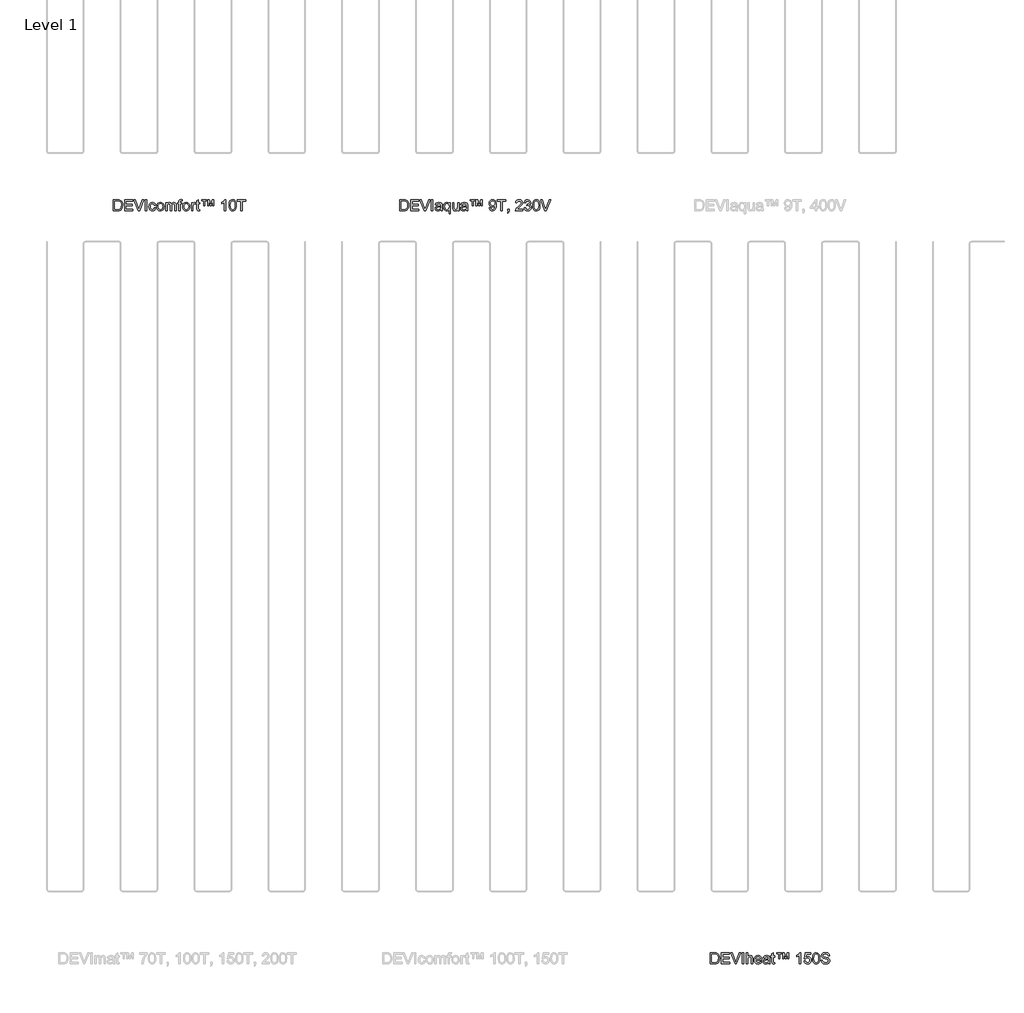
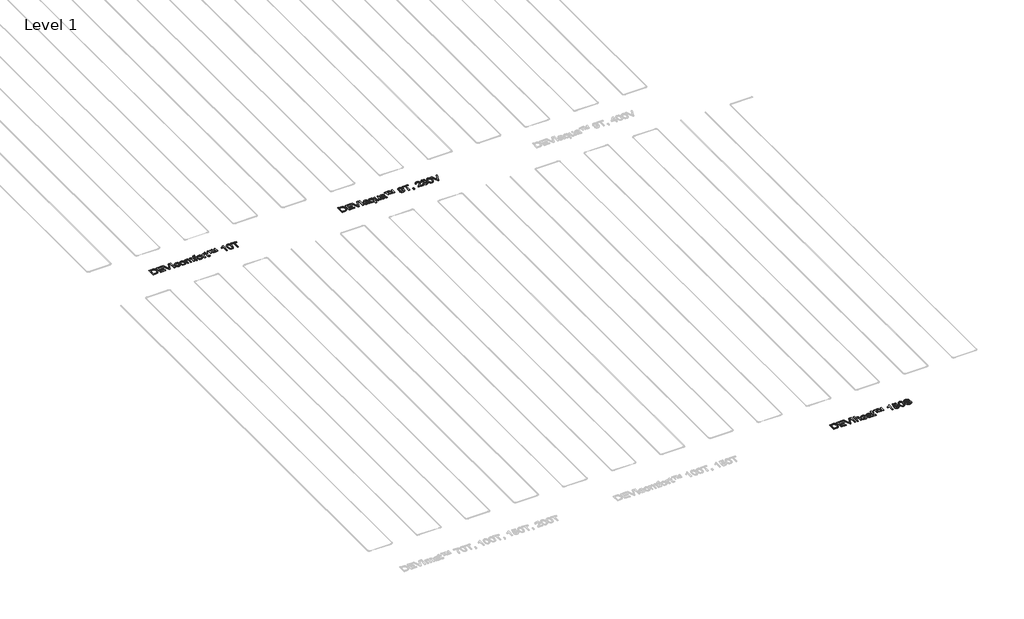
# One storey, part 11 of 26: 3 proxies.
"""IFC4 building model written with IfcOpenShell, lengths in millimetres."""

from ifc_helpers import new_model, si_unit, origin, origin_with_axes, place, context, project, spatial, polyline, outline, extrude, element, save

model = new_model("IFC4")

# Units and contexts
model_context = context("Model", 3, world=origin())
ifc_project = project(units=[si_unit("LENGTHUNIT", "METRE", prefix="MILLI")], contexts=[model_context])

# Site, building, storey
site = spatial("IfcSite", under=ifc_project)
building = spatial("IfcBuilding", under=site)
storey = spatial("IfcBuildingStorey", under=building, Name="Level 1", Elevation=0.0)

# Proxies
placement = place(None, origin())
element("IfcBuildingElementProxy", 1, Name="150mm", ObjectType="150mm", at=placement, inside=storey, context=model_context, shape_type="SweptSolid", body=[
    extrude(outline(polyline([(-10684.4647852, -17520.7202), (-10684.4647852, -17370.0357347), (-10632.4830593, -17370.0357347), (-10605.5908854, -17372.2062385), (-10583.4443893, -17382.985181), (-10573.0241318, -17394.4630992), (-10565.6021126, -17408.7369206), (-10561.1599375, -17425.5307337), (-10559.6792124, -17444.568627), (-10563.6891262, -17474.9740739), (-10573.9898221, -17496.9182349), (-10587.7486087, -17510.585051), (-10605.7564323, -17518.145026), (-10629.9814617, -17520.7202), (-10684.4647852, -17520.7202)]), holes=[polyline([(-10665.6292271, -17501.8846418), (-10632.2991183, -17501.8846418), (-10608.0556948, -17499.162315), (-10594.076179, -17491.4735813), (-10582.6166548, -17472.7667819), (-10578.5147706, -17444.2743214), (-10580.524326, -17423.746506), (-10586.5529922, -17408.5897678), (-10595.460335, -17398.1787074), (-10606.1059202, -17391.8879252), (-10632.8141531, -17388.8712929), (-10665.6292271, -17388.8712929), (-10665.6292271, -17501.8846418)])]), origin_with_axes(), (0.0, 0.0, 1.0), 10.0),
    extrude(outline(polyline([(-10533.78032, -17520.7202), (-10533.78032, -17370.0357347), (-10425.4758606, -17370.0357347), (-10425.4758606, -17388.8712929), (-10514.9447618, -17388.8712929), (-10514.9447618, -17433.6057435), (-10430.1847501, -17433.6057435), (-10430.1847501, -17452.4413017), (-10514.9447618, -17452.4413017), (-10514.9447618, -17501.8846418), (-10423.1214158, -17501.8846418), (-10423.1214158, -17520.7202), (-10533.78032, -17520.7202)])), origin_with_axes(), (0.0, 0.0, 1.0), 10.0),
    extrude(outline(polyline([(-10350.3543572, -17520.7202), (-10410.3191224, -17370.0357347), (-10390.1591891, -17370.0357347), (-10350.0232634, -17478.5977115), (-10341.8930713, -17503.0618642), (-10333.8732438, -17478.5977115), (-10293.6269535, -17370.0357347), (-10273.4670202, -17370.0357347), (-10330.8933996, -17520.7202), (-10350.3543572, -17520.7202)])), origin_with_axes(), (0.0, 0.0, 1.0), 10.0),
    extrude(outline(polyline([(-10253.6013925, -17520.7202), (-10253.6013925, -17370.0357347), (-10234.7658343, -17370.0357347), (-10234.7658343, -17520.7202), (-10253.6013925, -17520.7202)])), origin_with_axes(), (0.0, 0.0, 1.0), 10.0),
    extrude(outline(polyline([(-10128.8158197, -17480.6946389), (-10109.9802615, -17483.0490837), (-10115.231777, -17499.80151), (-10125.1002115, -17512.4612492), (-10138.6566631, -17520.4212958), (-10154.9722296, -17523.0746447), (-10175.0080027, -17519.3728322), (-10190.6751772, -17508.2673944), (-10200.7873335, -17490.2457752), (-10204.1580523, -17465.7954181), (-10202.718714, -17449.0337947), (-10198.4006991, -17434.5070544), (-10191.1350297, -17422.7762173), (-10180.8527279, -17414.4023034), (-10168.5516737, -17409.3807141), (-10155.229747, -17407.706851), (-10139.3142521, -17410.0061135), (-10126.5901336, -17416.9039009), (-10117.4620616, -17428.0323313), (-10112.3347063, -17443.0235226), (-10131.1702645, -17445.3779673), (-10139.9074619, -17431.2696928), (-10155.0825942, -17426.5424092), (-10167.2548897, -17428.8692628), (-10176.9163906, -17435.8498237), (-10183.2209683, -17447.8611708), (-10185.3224942, -17465.2803833), (-10183.2669535, -17482.9341205), (-10177.1003316, -17494.9868544), (-10167.6135746, -17501.9260285), (-10155.5976289, -17504.2390866), (-10145.8441575, -17502.7951497), (-10137.8473227, -17498.4633392), (-10132.0301886, -17491.1332905), (-10128.8158197, -17480.6946389)])), origin_with_axes(), (0.0, 0.0, 1.0), 10.0),
    extrude(outline(polyline([(-10098.2080377, -17465.3907479), (-10094.1337446, -17438.7101062), (-10081.9108653, -17419.9573215), (-10066.8093094, -17410.7694686), (-10048.7279093, -17407.706851), (-10028.9404565, -17411.4362548), (-10013.1353263, -17422.6244659), (-10002.7748496, -17440.3885678), (-9999.3213574, -17463.8456435), (-10000.8480677, -17482.8743397), (-10005.4281985, -17497.3596933), (-10012.9283927, -17508.2076136), (-10023.215293, -17516.3240101), (-10035.4335737, -17521.3869861), (-10048.7279093, -17523.0746447), (-10068.7544855, -17519.3590366), (-10084.5412216, -17508.2122121), (-10094.7913337, -17490.0756298), (-10098.2080377, -17465.3907479)]), holes=[polyline([(-10079.3724795, -17465.3539597), (-10077.1927787, -17482.4006916), (-10070.6536763, -17494.545396), (-10060.8128329, -17501.8156639), (-10048.7279093, -17504.2390866), (-10036.6981681, -17501.8018684), (-10026.8757188, -17494.4902137), (-10020.3366164, -17482.184561), (-10018.1569155, -17464.7653485), (-10020.3504119, -17448.2152572), (-10026.9309011, -17436.2360998), (-10036.767146, -17428.9658318), (-10048.7279093, -17426.5424092), (-10060.8128329, -17428.9566348), (-10070.6536763, -17436.1993116), (-10077.1927787, -17448.3164248), (-10079.3724795, -17465.3539597)])]), origin_with_axes(), (0.0, 0.0, 1.0), 10.0),
    extrude(outline(polyline([(-9978.1313545, -17520.7202), (-9978.1313545, -17410.0612958), (-9959.2957963, -17410.0612958), (-9959.2957963, -17428.2714546), (-9946.3463501, -17413.3538397), (-9927.9154621, -17407.706851), (-9917.4400223, -17409.1461893), (-9909.0431158, -17413.4642043), (-9898.6688435, -17429.5958298), (-9883.9719578, -17413.1790957), (-9865.4123112, -17407.706851), (-9851.2534529, -17409.9831209), (-9840.7826116, -17416.8119304), (-9834.312487, -17428.3772206), (-9832.1557788, -17444.8629326), (-9832.1557788, -17520.7202), (-9850.9913369, -17520.7202), (-9850.9913369, -17452.9563364), (-9852.7387764, -17437.2293812), (-9859.0663467, -17429.4854652), (-9869.8268951, -17426.5424092), (-9880.0310219, -17428.4278044), (-9888.3497535, -17434.0839901), (-9893.8817791, -17443.8972423), (-9895.7257876, -17458.2538372), (-9895.7257876, -17520.7202), (-9914.5613457, -17520.7202), (-9914.5613457, -17450.8594091), (-9918.9207473, -17432.6124621), (-9924.673502, -17428.0599224), (-9933.2129629, -17426.5424092), (-9947.1556905, -17430.5891111), (-9956.4263168, -17442.4349114), (-9959.2957963, -17464.9125013), (-9959.2957963, -17520.7202), (-9978.1313545, -17520.7202)])), origin_with_axes(), (0.0, 0.0, 1.0), 10.0),
    extrude(outline(polyline([(-9799.193552, -17520.7202), (-9799.193552, -17428.896854), (-9815.6746654, -17428.896854), (-9815.6746654, -17410.0612958), (-9799.193552, -17410.0612958), (-9799.193552, -17398.9144714), (-9797.2069892, -17383.2059102), (-9787.568481, -17371.9855093), (-9768.58577, -17367.68129), (-9751.4056808, -17369.7414291), (-9754.1647958, -17387.3997649), (-9765.0173147, -17386.5168481), (-9776.881509, -17389.6438451), (-9780.3579939, -17401.3057043), (-9780.3579939, -17410.0612958), (-9759.1679909, -17410.0612958), (-9759.1679909, -17428.896854), (-9780.3579939, -17428.896854), (-9780.3579939, -17520.7202), (-9799.193552, -17520.7202)])), origin_with_axes(), (0.0, 0.0, 1.0), 10.0),
    extrude(outline(polyline([(-9747.3957671, -17465.3907479), (-9743.321474, -17438.7101062), (-9731.0985947, -17419.9573215), (-9715.9970388, -17410.7694686), (-9697.9156387, -17407.706851), (-9678.1281859, -17411.4362548), (-9662.3230557, -17422.6244659), (-9651.962579, -17440.3885678), (-9648.5090868, -17463.8456435), (-9650.0357971, -17482.8743397), (-9654.6159279, -17497.3596933), (-9662.1161221, -17508.2076136), (-9672.4030224, -17516.3240101), (-9684.6213031, -17521.3869861), (-9697.9156387, -17523.0746447), (-9717.9422149, -17519.3590366), (-9733.728951, -17508.2122121), (-9743.9790631, -17490.0756298), (-9747.3957671, -17465.3907479)]), holes=[polyline([(-9728.5602089, -17465.3539597), (-9726.3805081, -17482.4006916), (-9719.8414057, -17494.545396), (-9710.0005623, -17501.8156639), (-9697.9156387, -17504.2390866), (-9685.8858975, -17501.8018684), (-9676.0634482, -17494.4902137), (-9669.5243458, -17482.184561), (-9667.3446449, -17464.7653485), (-9669.5381413, -17448.2152572), (-9676.1186305, -17436.2360998), (-9685.9548754, -17428.9658318), (-9697.9156387, -17426.5424092), (-9710.0005623, -17428.9566348), (-9719.8414057, -17436.1993116), (-9726.3805081, -17448.3164248), (-9728.5602089, -17465.3539597)])]), origin_with_axes(), (0.0, 0.0, 1.0), 10.0),
    extrude(outline(polyline([(-9627.3190839, -17520.7202), (-9627.3190839, -17410.0612958), (-9610.8379705, -17410.0612958), (-9610.8379705, -17426.4320446), (-9599.139323, -17411.3488828), (-9587.3670992, -17407.706851), (-9568.4579646, -17413.5193866), (-9574.7487468, -17430.4051701), (-9587.9924986, -17426.5424092), (-9598.6426823, -17430.2580173), (-9605.4301052, -17440.5587132), (-9608.4835257, -17462.5580565), (-9608.4835257, -17520.7202), (-9627.3190839, -17520.7202)])), origin_with_axes(), (0.0, 0.0, 1.0), 10.0),
    extrude(outline(polyline([(-9516.6601797, -17505.0116388), (-9514.305735, -17521.272023), (-9528.3956154, -17523.0746447), (-9544.177753, -17519.9476478), (-9552.0504277, -17511.7438793), (-9554.331296, -17490.3699354), (-9554.331296, -17428.896854), (-9568.4579646, -17428.896854), (-9568.4579646, -17410.0612958), (-9554.331296, -17410.0612958), (-9554.331296, -17383.169122), (-9535.4957379, -17372.0958739), (-9535.4957379, -17410.0612958), (-9516.6601797, -17410.0612958), (-9516.6601797, -17428.896854), (-9535.4957379, -17428.896854), (-9535.4957379, -17489.8181124), (-9534.5024565, -17499.530197), (-9531.283489, -17502.9698937), (-9524.8639482, -17504.2390866), (-9516.6601797, -17505.0116388)])), origin_with_axes(), (0.0, 0.0, 1.0), 10.0),
    extrude(outline(polyline([(-9462.50795, -17454.7957464), (-9462.50795, -17384.1624033), (-9490.7612873, -17384.1624033), (-9490.7612873, -17370.0357347), (-9420.1279442, -17370.0357347), (-9420.1279442, -17384.1624033), (-9448.3812814, -17384.1624033), (-9448.3812814, -17454.7957464), (-9462.50795, -17454.7957464)])), origin_with_axes(), (0.0, 0.0, 1.0), 10.0),
    extrude(outline(polyline([(-9410.7101651, -17454.7957464), (-9410.7101651, -17370.0357347), (-9389.8144678, -17370.0357347), (-9368.2565829, -17438.0939038), (-9346.9562153, -17370.0357347), (-9325.9501534, -17370.0357347), (-9325.9501534, -17454.7957464), (-9340.076822, -17454.7957464), (-9340.076822, -17385.1924729), (-9361.266825, -17454.7957464), (-9375.3934936, -17454.7957464), (-9396.5834965, -17384.1624033), (-9396.5834965, -17454.7957464), (-9410.7101651, -17454.7957464)])), origin_with_axes(), (0.0, 0.0, 1.0), 10.0),
    extrude(outline(polyline([(-9163.4934644, -17520.7202), (-9182.3290225, -17520.7202), (-9182.3290225, -17403.2922671), (-9200.1712993, -17416.00259), (-9220.0001388, -17425.5123396), (-9220.0001388, -17407.706851), (-9192.3905951, -17390.0853035), (-9175.6335702, -17370.0357347), (-9163.4934644, -17370.0357347), (-9163.4934644, -17520.7202)])), origin_with_axes(), (0.0, 0.0, 1.0), 10.0),
    extrude(outline(polyline([(-9118.7590137, -17446.5919779), (-9117.3748577, -17422.4727146), (-9113.2223897, -17403.2370848), (-9106.3429964, -17388.5907829), (-9096.7780645, -17378.2395032), (-9084.4586162, -17372.0866769), (-9069.3156736, -17370.0357347), (-9047.3163303, -17374.8917771), (-9032.1228039, -17388.889687), (-9023.293636, -17411.1833359), (-9019.8723334, -17446.5919779), (-9021.2426939, -17470.5732855), (-9025.3537752, -17489.7629301), (-9032.1917817, -17504.4230276), (-9041.742918, -17514.8156939), (-9054.0899575, -17521.009907), (-9069.3156736, -17523.0746447), (-9088.8869957, -17519.4877953), (-9103.7494283, -17508.7272469), (-9115.0066174, -17483.2422217), (-9118.7590137, -17446.5919779)]), holes=[polyline([(-9099.9234556, -17446.5551897), (-9097.7161636, -17476.1834859), (-9091.0942877, -17493.3313854), (-9081.2350502, -17501.5121613), (-9069.3156736, -17504.2390866), (-9057.3962969, -17501.5029642), (-9047.5370595, -17493.2945972), (-9040.9151836, -17476.1375007), (-9038.7078916, -17446.5551897), (-9040.8416072, -17417.5936797), (-9047.2427539, -17400.3124229), (-9057.0835972, -17391.7315754), (-9069.5364028, -17388.8712929), (-9081.3270207, -17391.3912846), (-9090.7999821, -17398.9512596), (-9097.6425872, -17417.3085711), (-9099.9234556, -17446.5551897)])]), origin_with_axes(), (0.0, 0.0, 1.0), 10.0),
    extrude(outline(polyline([(-8958.6567694, -17520.7202), (-8958.6567694, -17388.8712929), (-9008.1001096, -17388.8712929), (-9008.1001096, -17370.0357347), (-8890.3778711, -17370.0357347), (-8890.3778711, -17388.8712929), (-8939.8212113, -17388.8712929), (-8939.8212113, -17520.7202), (-8958.6567694, -17520.7202)])), origin_with_axes(), (0.0, 0.0, 1.0), 10.0),
])
element("IfcBuildingElementProxy", 2, Name="150mm", ObjectType="150mm", at=placement, inside=storey, context=model_context, shape_type="SweptSolid", body=[
    extrude(outline(polyline([(-6808.0731356, -17520.7202), (-6808.0731356, -17370.0357347), (-6756.0914097, -17370.0357347), (-6729.1992358, -17372.2062385), (-6707.0527397, -17382.985181), (-6696.6324822, -17394.4630992), (-6689.2104629, -17408.7369206), (-6684.7682879, -17425.5307337), (-6683.2875628, -17444.568627), (-6687.2974766, -17474.9740739), (-6697.5981724, -17496.9182349), (-6711.3569591, -17510.585051), (-6729.3647827, -17518.145026), (-6753.5898121, -17520.7202), (-6808.0731356, -17520.7202)]), holes=[polyline([(-6789.2375774, -17501.8846418), (-6755.9074687, -17501.8846418), (-6731.6640452, -17499.162315), (-6717.6845294, -17491.4735813), (-6706.2250052, -17472.7667819), (-6702.123121, -17444.2743214), (-6704.1326764, -17423.746506), (-6710.1613426, -17408.5897678), (-6719.0686854, -17398.1787074), (-6729.7142706, -17391.8879252), (-6756.4225035, -17388.8712929), (-6789.2375774, -17388.8712929), (-6789.2375774, -17501.8846418)])]), origin_with_axes(), (0.0, 0.0, 1.0), 10.0),
    extrude(outline(polyline([(-6657.3886704, -17520.7202), (-6657.3886704, -17370.0357347), (-6549.084211, -17370.0357347), (-6549.084211, -17388.8712929), (-6638.5531122, -17388.8712929), (-6638.5531122, -17433.6057435), (-6553.7931005, -17433.6057435), (-6553.7931005, -17452.4413017), (-6638.5531122, -17452.4413017), (-6638.5531122, -17501.8846418), (-6546.7297662, -17501.8846418), (-6546.7297662, -17520.7202), (-6657.3886704, -17520.7202)])), origin_with_axes(), (0.0, 0.0, 1.0), 10.0),
    extrude(outline(polyline([(-6473.9627076, -17520.7202), (-6533.9274728, -17370.0357347), (-6513.7675394, -17370.0357347), (-6473.6316138, -17478.5977115), (-6465.5014217, -17503.0618642), (-6457.4815942, -17478.5977115), (-6417.2353039, -17370.0357347), (-6397.0753706, -17370.0357347), (-6454.50175, -17520.7202), (-6473.9627076, -17520.7202)])), origin_with_axes(), (0.0, 0.0, 1.0), 10.0),
    extrude(outline(polyline([(-6377.2097428, -17520.7202), (-6377.2097428, -17370.0357347), (-6358.3741847, -17370.0357347), (-6358.3741847, -17520.7202), (-6377.2097428, -17520.7202)])), origin_with_axes(), (0.0, 0.0, 1.0), 10.0),
    extrude(outline(polyline([(-6252.4241701, -17506.5935313), (-6270.6895111, -17519.3590366), (-6290.8678386, -17523.0746447), (-6306.6085894, -17520.8397616), (-6318.2198649, -17514.1351122), (-6325.3797682, -17503.953978), (-6327.7664027, -17491.2896403), (-6324.1611591, -17476.3904195), (-6314.6881978, -17465.5746889), (-6301.4996282, -17459.3942714), (-6285.2024558, -17456.56158), (-6252.5345347, -17450.0868569), (-6252.4241701, -17445.8930021), (-6253.7209541, -17437.4868985), (-6257.6113062, -17431.9870627), (-6266.3117154, -17427.9035726), (-6278.4334271, -17426.5424092), (-6297.4897145, -17430.1660468), (-6306.5763998, -17443.0235226), (-6325.4119579, -17440.6690778), (-6317.2633717, -17422.274978), (-6300.8558347, -17411.4960356), (-6276.005406, -17407.706851), (-6253.1783282, -17411.0545772), (-6240.2840642, -17419.4606808), (-6234.5083169, -17432.2445801), (-6233.5886119, -17448.7256935), (-6233.5886119, -17472.1597766), (-6232.6321187, -17504.8828801), (-6228.8797224, -17520.7202), (-6247.7152805, -17520.7202), (-6252.4241701, -17506.5935313)]), holes=[polyline([(-6252.4241701, -17468.922415), (-6282.8112229, -17474.6981624), (-6299.0164248, -17477.7515829), (-6306.3556706, -17482.7179899), (-6308.9308445, -17489.9652652), (-6303.3206441, -17500.1555964), (-6286.8579248, -17504.2390866), (-6267.8016375, -17499.7325321), (-6255.5143788, -17488.824831), (-6252.5345347, -17474.256704), (-6252.4241701, -17468.922415)])]), origin_with_axes(), (0.0, 0.0, 1.0), 10.0),
    extrude(outline(polyline([(-6139.4108212, -17563.1002058), (-6139.4108212, -17505.6370382), (-6151.366986, -17518.1082378), (-6167.7009466, -17523.0746447), (-6185.6076027, -17519.152103), (-6200.8471144, -17507.3844776), (-6211.2765689, -17488.7834443), (-6214.7530538, -17464.3606783), (-6209.2348238, -17434.5254485), (-6202.4749922, -17422.9187715), (-6193.2319571, -17414.512668), (-6182.2414824, -17409.4083053), (-6170.2393324, -17407.706851), (-6152.7281494, -17412.9859577), (-6139.4108212, -17428.8232776), (-6139.4108212, -17410.0612958), (-6120.575263, -17410.0612958), (-6120.575263, -17563.1002058), (-6139.4108212, -17563.1002058)]), holes=[polyline([(-6195.9174956, -17465.3907479), (-6193.7975756, -17482.3868961), (-6187.4378156, -17494.5270019), (-6178.1166056, -17501.8110654), (-6167.1123354, -17504.2390866), (-6156.5679177, -17501.9306271), (-6147.5961956, -17495.0052485), (-6141.4571648, -17483.3617833), (-6139.4108212, -17466.8990641), (-6141.5675294, -17449.3005091), (-6148.0376539, -17436.6775582), (-6157.4140463, -17429.0761964), (-6168.2895578, -17426.5424092), (-6178.9627342, -17428.9014525), (-6187.879274, -17435.9785824), (-6193.9079402, -17448.0497103), (-6195.9174956, -17465.3907479)])]), origin_with_axes(), (0.0, 0.0, 1.0), 10.0),
    extrude(outline(polyline([(-6021.6885827, -17520.7202), (-6021.6885827, -17501.7007008), (-6036.4406507, -17517.7311587), (-6055.6808791, -17523.0746447), (-6073.3943971, -17519.3222484), (-6085.6080794, -17509.9044693), (-6091.2182798, -17496.0353181), (-6092.3219258, -17478.5241351), (-6092.3219258, -17410.0612958), (-6073.4863676, -17410.0612958), (-6073.4863676, -17469.658179), (-6072.3459334, -17488.8616192), (-6064.896323, -17500.1372023), (-6050.8616249, -17504.2390866), (-6035.1346696, -17500.0452318), (-6024.7420033, -17488.6224959), (-6021.6885827, -17467.6348281), (-6021.6885827, -17410.0612958), (-6002.8530245, -17410.0612958), (-6002.8530245, -17520.7202), (-6021.6885827, -17520.7202)])), origin_with_axes(), (0.0, 0.0, 1.0), 10.0),
    extrude(outline(polyline([(-5906.320789, -17506.5935313), (-5924.5861301, -17519.3590366), (-5944.7644575, -17523.0746447), (-5960.5052084, -17520.8397616), (-5972.1164839, -17514.1351122), (-5979.2763872, -17503.953978), (-5981.6630216, -17491.2896403), (-5978.0577781, -17476.3904195), (-5968.5848167, -17465.5746889), (-5955.3962472, -17459.3942714), (-5939.0990748, -17456.56158), (-5906.4311536, -17450.0868569), (-5906.320789, -17445.8930021), (-5907.617573, -17437.4868985), (-5911.5079251, -17431.9870627), (-5920.2083343, -17427.9035726), (-5932.3300461, -17426.5424092), (-5951.3863334, -17430.1660468), (-5960.4730187, -17443.0235226), (-5979.3085769, -17440.6690778), (-5971.1599907, -17422.274978), (-5954.7524537, -17411.4960356), (-5929.9020249, -17407.706851), (-5907.0749471, -17411.0545772), (-5894.1806832, -17419.4606808), (-5888.4049358, -17432.2445801), (-5887.4852309, -17448.7256935), (-5887.4852309, -17472.1597766), (-5886.5287377, -17504.8828801), (-5882.7763413, -17520.7202), (-5901.6118995, -17520.7202), (-5906.320789, -17506.5935313)]), holes=[polyline([(-5906.320789, -17468.922415), (-5936.7078418, -17474.6981624), (-5952.9130437, -17477.7515829), (-5960.2522895, -17482.7179899), (-5962.8274635, -17489.9652652), (-5957.217263, -17500.1555964), (-5940.7545438, -17504.2390866), (-5921.6982564, -17499.7325321), (-5909.4109978, -17488.824831), (-5906.4311536, -17474.256704), (-5906.320789, -17468.922415)])]), origin_with_axes(), (0.0, 0.0, 1.0), 10.0),
    extrude(outline(polyline([(-5826.2696669, -17454.7957464), (-5826.2696669, -17384.1624033), (-5854.5230041, -17384.1624033), (-5854.5230041, -17370.0357347), (-5783.889661, -17370.0357347), (-5783.889661, -17384.1624033), (-5812.1429982, -17384.1624033), (-5812.1429982, -17454.7957464), (-5826.2696669, -17454.7957464)])), origin_with_axes(), (0.0, 0.0, 1.0), 10.0),
    extrude(outline(polyline([(-5774.4718819, -17454.7957464), (-5774.4718819, -17370.0357347), (-5753.5761846, -17370.0357347), (-5732.0182997, -17438.0939038), (-5710.7179322, -17370.0357347), (-5689.7118703, -17370.0357347), (-5689.7118703, -17454.7957464), (-5703.8385389, -17454.7957464), (-5703.8385389, -17385.1924729), (-5725.0285418, -17454.7957464), (-5739.1552104, -17454.7957464), (-5760.3452133, -17384.1624033), (-5760.3452133, -17454.7957464), (-5774.4718819, -17454.7957464)])), origin_with_axes(), (0.0, 0.0, 1.0), 10.0),
    extrude(outline(polyline([(-5595.5340795, -17483.0490837), (-5576.6985213, -17480.6946389), (-5573.4795539, -17491.3862094), (-5568.2372354, -17498.6656743), (-5561.1003247, -17502.8457335), (-5552.1975805, -17504.2390866), (-5536.9488718, -17500.6522371), (-5526.6113877, -17491.0689111), (-5520.4493643, -17474.6981624), (-5517.7270375, -17452.8459718), (-5517.8374021, -17449.1671519), (-5532.9021698, -17463.4409733), (-5553.5587438, -17468.922415), (-5570.7342345, -17465.5746889), (-5585.0310485, -17455.5315104), (-5594.6741553, -17440.0160873), (-5597.8885243, -17420.2516271), (-5594.5178055, -17399.8341763), (-5584.4056491, -17383.8313096), (-5569.2167213, -17373.4846284), (-5550.6156879, -17370.0357347), (-5536.5671942, -17372.0039034), (-5523.7786963, -17377.9084094), (-5513.0825273, -17387.4549472), (-5505.3110202, -17400.3492111), (-5500.579138, -17418.1730938), (-5499.001844, -17442.5084878), (-5500.5745395, -17468.3108112), (-5505.2926261, -17488.2546139), (-5513.114717, -17503.2412067), (-5523.9994255, -17514.1719004), (-5537.4777021, -17520.8489587), (-5553.0804972, -17523.0746447), (-5569.1845316, -17520.448887), (-5582.0328103, -17512.5716138), (-5591.018328, -17499.9394658), (-5595.5340795, -17483.0490837)]), holes=[polyline([(-5517.8374021, -17419.8101687), (-5519.8699501, -17407.0446634), (-5525.9675942, -17397.2222142), (-5535.4313585, -17390.9590232), (-5547.5622673, -17388.8712929), (-5560.1438316, -17391.1199716), (-5570.2237982, -17397.8660077), (-5576.8456741, -17408.1896962), (-5579.0529661, -17421.1713321), (-5576.9652358, -17432.8101987), (-5570.7020448, -17442.0486353), (-5560.8703985, -17448.0773015), (-5548.0773021, -17450.0868569), (-5536.0429623, -17448.0773015), (-5526.3538703, -17442.0486353), (-5519.9665192, -17432.4699078), (-5517.8374021, -17419.8101687)])]), origin_with_axes(), (0.0, 0.0, 1.0), 10.0),
    extrude(outline(polyline([(-5437.78628, -17520.7202), (-5437.78628, -17388.8712929), (-5487.2296201, -17388.8712929), (-5487.2296201, -17370.0357347), (-5369.5073817, -17370.0357347), (-5369.5073817, -17388.8712929), (-5418.9507218, -17388.8712929), (-5418.9507218, -17520.7202), (-5437.78628, -17520.7202)])), origin_with_axes(), (0.0, 0.0, 1.0), 10.0),
    extrude(outline(polyline([(-5345.962934, -17520.7202), (-5345.962934, -17501.8846418), (-5327.1273758, -17501.8846418), (-5327.1273758, -17520.7202), (-5330.5118902, -17539.9788224), (-5341.2540444, -17551.327982), (-5345.962934, -17544.2646476), (-5339.0467525, -17536.1344556), (-5336.5819431, -17520.7202), (-5345.962934, -17520.7202)])), origin_with_axes(), (0.0, 0.0, 1.0), 10.0),
    extrude(outline(polyline([(-5141.126239, -17501.8846418), (-5141.126239, -17520.7202), (-5240.0129193, -17520.7202), (-5237.9895684, -17507.7339655), (-5226.5484383, -17487.7395791), (-5202.9672024, -17465.9057827), (-5170.4464341, -17434.5254485), (-5164.34879, -17423.7097178), (-5162.316242, -17413.1882928), (-5164.2338269, -17403.7567181), (-5169.9865816, -17395.9162331), (-5178.829545, -17390.6325279), (-5190.0177562, -17388.8712929), (-5201.7669874, -17390.5911412), (-5210.8950594, -17395.7506862), (-5216.7857699, -17403.9452576), (-5218.8229164, -17414.7701853), (-5237.6584746, -17412.4157406), (-5233.0921393, -17394.1963848), (-5223.2191063, -17380.8882536), (-5208.5544102, -17372.7488644), (-5189.613086, -17370.0357347), (-5170.533806, -17373.0523671), (-5155.8967012, -17382.1022642), (-5146.5846881, -17395.6219275), (-5143.4806838, -17412.0478586), (-5146.82841, -17429.9085294), (-5157.9568403, -17448.3762056), (-5184.9409847, -17474.1831276), (-5206.6092342, -17492.3013158), (-5215.1073083, -17501.8846418), (-5141.126239, -17501.8846418)])), origin_with_axes(), (0.0, 0.0, 1.0), 10.0),
    extrude(outline(polyline([(-5122.2906809, -17480.6946389), (-5103.4551227, -17478.3401941), (-5099.2382754, -17490.1767973), (-5093.0624564, -17498.1690337), (-5084.6241631, -17502.7215733), (-5073.6198929, -17504.2390866), (-5060.7072349, -17502.1513563), (-5050.7376328, -17495.8881653), (-5044.3640773, -17486.5439626), (-5042.2395587, -17475.2131972), (-5044.3456832, -17464.4572473), (-5050.6640564, -17455.7338455), (-5060.2289883, -17449.9534997), (-5072.0747886, -17448.0267177), (-5085.2817522, -17450.0868569), (-5083.1848248, -17431.2512987), (-5080.1681924, -17431.4720279), (-5058.7942485, -17426.0641626), (-5051.6757319, -17419.2031634), (-5049.3028931, -17409.4358964), (-5051.0227414, -17401.3011058), (-5056.1822864, -17394.7022225), (-5064.0549611, -17390.3290253), (-5073.9141985, -17388.8712929), (-5083.7918301, -17390.3428209), (-5091.8668399, -17394.7574048), (-5097.7621489, -17402.1150447), (-5101.100678, -17412.4157406), (-5119.9362361, -17410.0612958), (-5114.390415, -17393.1479211), (-5104.5219805, -17380.5203716), (-5091.0207113, -17372.6568939), (-5074.5763861, -17370.0357347), (-5051.8596729, -17375.2044768), (-5035.9671707, -17389.3311454), (-5030.4673349, -17408.3322504), (-5035.6912592, -17425.6962806), (-5051.142303, -17438.1674802), (-5039.3516851, -17442.9315521), (-5030.6144877, -17451.0433501), (-5025.2066224, -17462.0614158), (-5023.4040006, -17475.544291), (-5027.0092441, -17493.9016025), (-5037.8249748, -17509.2422817), (-5054.1497383, -17519.616554), (-5074.2820805, -17523.0746447), (-5092.4922393, -17520.1223917), (-5107.3178837, -17511.2656327), (-5117.6277766, -17497.7183782), (-5122.2906809, -17480.6946389)])), origin_with_axes(), (0.0, 0.0, 1.0), 10.0),
    extrude(outline(polyline([(-5006.9228872, -17446.5919779), (-5005.5387312, -17422.4727146), (-5001.3862632, -17403.2370848), (-4994.5068699, -17388.5907829), (-4984.941938, -17378.2395032), (-4972.6224897, -17372.0866769), (-4957.4795471, -17370.0357347), (-4935.4802037, -17374.8917771), (-4920.2866773, -17388.889687), (-4911.4575095, -17411.1833359), (-4908.0362069, -17446.5919779), (-4909.4065673, -17470.5732855), (-4913.5176486, -17489.7629301), (-4920.3556552, -17504.4230276), (-4929.9067915, -17514.8156939), (-4942.253831, -17521.009907), (-4957.4795471, -17523.0746447), (-4977.0508692, -17519.4877953), (-4991.9133018, -17508.7272469), (-5003.1704909, -17483.2422217), (-5006.9228872, -17446.5919779)]), holes=[polyline([(-4988.0873291, -17446.5551897), (-4985.8800371, -17476.1834859), (-4979.2581612, -17493.3313854), (-4969.3989237, -17501.5121613), (-4957.4795471, -17504.2390866), (-4945.5601704, -17501.5029642), (-4935.7009329, -17493.2945972), (-4929.079057, -17476.1375007), (-4926.8717651, -17446.5551897), (-4929.0054806, -17417.5936797), (-4935.4066273, -17400.3124229), (-4945.2474707, -17391.7315754), (-4957.7002763, -17388.8712929), (-4969.4908942, -17391.3912846), (-4978.9638556, -17398.9512596), (-4985.8064607, -17417.3085711), (-4988.0873291, -17446.5551897)])]), origin_with_axes(), (0.0, 0.0, 1.0), 10.0),
    extrude(outline(polyline([(-4839.9780378, -17520.7202), (-4899.942803, -17370.0357347), (-4879.7828697, -17370.0357347), (-4839.646944, -17478.5977115), (-4831.5167519, -17503.0618642), (-4823.4969244, -17478.5977115), (-4783.2506341, -17370.0357347), (-4763.0907008, -17370.0357347), (-4820.5170802, -17520.7202), (-4839.9780378, -17520.7202)])), origin_with_axes(), (0.0, 0.0, 1.0), 10.0),
])
element("IfcBuildingElementProxy", 3, Name="150mm", ObjectType="150mm", at=placement, inside=storey, context=model_context, shape_type="SweptSolid", body=[
    extrude(outline(polyline([(-2599.7047735, -27720.7202), (-2599.7047735, -27570.0357347), (-2547.7230476, -27570.0357347), (-2520.8308738, -27572.2062385), (-2498.6843776, -27582.985181), (-2488.2641201, -27594.4630992), (-2480.8421009, -27608.7369206), (-2476.3999258, -27625.5307337), (-2474.9192008, -27644.568627), (-2478.9291145, -27674.9740739), (-2489.2298104, -27696.9182349), (-2502.988597, -27710.585051), (-2520.9964207, -27718.145026), (-2545.22145, -27720.7202), (-2599.7047735, -27720.7202)]), holes=[polyline([(-2580.8692154, -27701.8846418), (-2547.5391066, -27701.8846418), (-2523.2956831, -27699.162315), (-2509.3161673, -27691.4735813), (-2497.8566432, -27672.7667819), (-2493.7547589, -27644.2743214), (-2495.7643143, -27623.746506), (-2501.7929805, -27608.5897678), (-2510.7003233, -27598.1787074), (-2521.3459086, -27591.8879252), (-2548.0541414, -27588.8712929), (-2580.8692154, -27588.8712929), (-2580.8692154, -27701.8846418)])]), origin_with_axes(), (0.0, 0.0, 1.0), 10.0),
    extrude(outline(polyline([(-2449.0203083, -27720.7202), (-2449.0203083, -27570.0357347), (-2340.7158489, -27570.0357347), (-2340.7158489, -27588.8712929), (-2430.1847501, -27588.8712929), (-2430.1847501, -27633.6057435), (-2345.4247385, -27633.6057435), (-2345.4247385, -27652.4413017), (-2430.1847501, -27652.4413017), (-2430.1847501, -27701.8846418), (-2338.3614041, -27701.8846418), (-2338.3614041, -27720.7202), (-2449.0203083, -27720.7202)])), origin_with_axes(), (0.0, 0.0, 1.0), 10.0),
    extrude(outline(polyline([(-2265.5943455, -27720.7202), (-2325.5591107, -27570.0357347), (-2305.3991774, -27570.0357347), (-2265.2632517, -27678.5977115), (-2257.1330596, -27703.0618642), (-2249.1132321, -27678.5977115), (-2208.8669418, -27570.0357347), (-2188.7070085, -27570.0357347), (-2246.133388, -27720.7202), (-2265.5943455, -27720.7202)])), origin_with_axes(), (0.0, 0.0, 1.0), 10.0),
    extrude(outline(polyline([(-2168.8413808, -27720.7202), (-2168.8413808, -27570.0357347), (-2150.0058226, -27570.0357347), (-2150.0058226, -27720.7202), (-2168.8413808, -27720.7202)])), origin_with_axes(), (0.0, 0.0, 1.0), 10.0),
    extrude(outline(polyline([(-2114.6891511, -27720.7202), (-2114.6891511, -27570.0357347), (-2095.8535929, -27570.0357347), (-2095.8535929, -27625.4387632), (-2081.1659043, -27612.1398291), (-2063.0753072, -27607.706851), (-2041.9220924, -27612.5444993), (-2029.0830108, -27625.9170098), (-2025.2202499, -27650.6754681), (-2025.2202499, -27720.7202), (-2044.055808, -27720.7202), (-2044.055808, -27652.6252427), (-2045.5549271, -27640.8346247), (-2050.0522845, -27632.7596149), (-2057.2995598, -27628.0967106), (-2067.0484327, -27626.5424092), (-2082.4810824, -27630.7362639), (-2092.7817783, -27642.1038176), (-2095.8535929, -27661.9326571), (-2095.8535929, -27720.7202), (-2114.6891511, -27720.7202)])), origin_with_axes(), (0.0, 0.0, 1.0), 10.0),
    extrude(outline(polyline([(-1921.8454092, -27687.7579732), (-1903.3777331, -27690.112418), (-1910.0317986, -27704.0275544), (-1920.6497927, -27714.4294178), (-1934.992592, -27720.913338), (-1952.8210732, -27723.0746447), (-1974.9215841, -27719.345241), (-1991.9269293, -27708.1570298), (-2002.7702511, -27690.2365781), (-2006.3846917, -27666.3104529), (-2002.7334629, -27641.5795857), (-1991.7797765, -27623.0843184), (-1975.0043575, -27611.5512179), (-1953.887931, -27607.706851), (-1933.4290935, -27611.5420208), (-1917.0813374, -27623.0475302), (-1906.3621757, -27641.5060093), (-1902.7891219, -27666.2000883), (-1902.8994865, -27671.2768598), (-1987.5491335, -27671.2768598), (-1984.2887794, -27685.3759373), (-1976.7150088, -27695.7410125), (-1965.784315, -27702.1145681), (-1952.4531912, -27704.2390866), (-1933.9855151, -27700.3027492), (-1921.8454092, -27687.7579732)]), holes=[polyline([(-1987.5491335, -27652.4413017), (-1921.62468, -27652.4413017), (-1924.1722628, -27642.4900937), (-1929.1662609, -27635.3715771), (-1940.1475385, -27628.7497012), (-1953.9615074, -27626.5424092), (-1966.6580347, -27628.3036442), (-1977.1564672, -27633.5873494), (-1984.4543263, -27641.8233076), (-1987.5491335, -27652.4413017)])]), origin_with_axes(), (0.0, 0.0, 1.0), 10.0),
    extrude(outline(polyline([(-1813.3202206, -27706.5935313), (-1831.5855617, -27719.3590366), (-1851.7638891, -27723.0746447), (-1867.50464, -27720.8397616), (-1879.1159155, -27714.1351122), (-1886.2758188, -27703.953978), (-1888.6624532, -27691.2896403), (-1885.0572097, -27676.3904195), (-1875.5842483, -27665.5746889), (-1862.3956788, -27659.3942714), (-1846.0985064, -27656.56158), (-1813.4305852, -27650.0868569), (-1813.3202206, -27645.8930021), (-1814.6170047, -27637.4868985), (-1818.5073568, -27631.9870627), (-1827.207766, -27627.9035726), (-1839.3294777, -27626.5424092), (-1858.385765, -27630.1660468), (-1867.4724503, -27643.0235226), (-1886.3080085, -27640.6690778), (-1878.1594223, -27622.274978), (-1861.7518853, -27611.4960356), (-1836.9014565, -27607.706851), (-1814.0743787, -27611.0545772), (-1801.1801148, -27619.4606808), (-1795.4043675, -27632.2445801), (-1794.4846625, -27648.7256935), (-1794.4846625, -27672.1597766), (-1793.5281693, -27704.8828801), (-1789.7757729, -27720.7202), (-1808.6113311, -27720.7202), (-1813.3202206, -27706.5935313)]), holes=[polyline([(-1813.3202206, -27668.922415), (-1843.7072734, -27674.6981624), (-1859.9124753, -27677.7515829), (-1867.2517211, -27682.7179899), (-1869.8268951, -27689.9652652), (-1864.2166947, -27700.1555964), (-1847.7539754, -27704.2390866), (-1828.697688, -27699.7325321), (-1816.4104294, -27688.824831), (-1813.4305852, -27674.256704), (-1813.3202206, -27668.922415)])]), origin_with_axes(), (0.0, 0.0, 1.0), 10.0),
    extrude(outline(polyline([(-1728.5602089, -27705.0116388), (-1726.2057642, -27721.272023), (-1740.2956446, -27723.0746447), (-1756.0777822, -27719.9476478), (-1763.9504569, -27711.7438793), (-1766.2313253, -27690.3699354), (-1766.2313253, -27628.896854), (-1780.3579939, -27628.896854), (-1780.3579939, -27610.0612958), (-1766.2313253, -27610.0612958), (-1766.2313253, -27583.169122), (-1747.3957671, -27572.0958739), (-1747.3957671, -27610.0612958), (-1728.5602089, -27610.0612958), (-1728.5602089, -27628.896854), (-1747.3957671, -27628.896854), (-1747.3957671, -27689.8181124), (-1746.4024857, -27699.530197), (-1743.1835183, -27702.9698937), (-1736.7639774, -27704.2390866), (-1728.5602089, -27705.0116388)])), origin_with_axes(), (0.0, 0.0, 1.0), 10.0),
    extrude(outline(polyline([(-1622.6101943, -27654.7957464), (-1622.6101943, -27570.0357347), (-1601.714497, -27570.0357347), (-1580.1566121, -27638.0939038), (-1558.8562446, -27570.0357347), (-1537.8501826, -27570.0357347), (-1537.8501826, -27654.7957464), (-1551.9768513, -27654.7957464), (-1551.9768513, -27585.1924729), (-1573.1668542, -27654.7957464), (-1587.2935228, -27654.7957464), (-1608.4835257, -27584.1624033), (-1608.4835257, -27654.7957464), (-1622.6101943, -27654.7957464)])), origin_with_axes(), (0.0, 0.0, 1.0), 10.0),
    extrude(outline(polyline([(-1674.4079793, -27654.7957464), (-1674.4079793, -27584.1624033), (-1702.6613165, -27584.1624033), (-1702.6613165, -27570.0357347), (-1632.0279734, -27570.0357347), (-1632.0279734, -27584.1624033), (-1660.2813106, -27584.1624033), (-1660.2813106, -27654.7957464), (-1674.4079793, -27654.7957464)])), origin_with_axes(), (0.0, 0.0, 1.0), 10.0),
    extrude(outline(polyline([(-1375.3934936, -27720.7202), (-1394.2290517, -27720.7202), (-1394.2290517, -27603.2922671), (-1412.0713285, -27616.00259), (-1431.900168, -27625.5123396), (-1431.900168, -27607.706851), (-1404.2906243, -27590.0853035), (-1387.5335994, -27570.0357347), (-1375.3934936, -27570.0357347), (-1375.3934936, -27720.7202)])), origin_with_axes(), (0.0, 0.0, 1.0), 10.0),
    extrude(outline(polyline([(-1330.659043, -27680.6946389), (-1311.8234848, -27678.3401941), (-1308.3653941, -27689.6479669), (-1302.3321293, -27697.7459694), (-1293.7512818, -27702.6158073), (-1282.6504426, -27704.2390866), (-1269.1491734, -27701.9812108), (-1259.0324185, -27695.2075836), (-1252.7140452, -27684.6999541), (-1250.6079208, -27671.2400716), (-1252.580688, -27658.5665369), (-1258.4989896, -27648.8728463), (-1268.4088109, -27642.7200199), (-1282.356137, -27640.6690778), (-1298.8924327, -27643.9432276), (-1309.46904, -27652.4413017), (-1328.3045982, -27650.0868569), (-1311.8234848, -27572.3901795), (-1238.835697, -27572.3901795), (-1238.835697, -27591.2257377), (-1296.5931702, -27591.2257377), (-1304.6497859, -27632.7228267), (-1291.1945019, -27624.5558464), (-1277.0954245, -27621.8335197), (-1259.4968695, -27625.208837), (-1244.8873558, -27635.3347889), (-1235.0511109, -27650.7674386), (-1231.7723627, -27670.0628492), (-1234.7246157, -27688.8984074), (-1243.5813747, -27705.0116388), (-1260.5407347, -27718.5588932), (-1282.724019, -27723.0746447), (-1301.2238848, -27720.1729755), (-1315.9621573, -27711.4679678), (-1326.0651165, -27697.9712971), (-1330.659043, -27680.6946389)])), origin_with_axes(), (0.0, 0.0, 1.0), 10.0),
    extrude(outline(polyline([(-1215.2912493, -27646.5919779), (-1213.9070933, -27622.4727146), (-1209.7546252, -27603.2370848), (-1202.8752319, -27588.5907829), (-1193.3103001, -27578.2395032), (-1180.9908517, -27572.0866769), (-1165.8479091, -27570.0357347), (-1143.8485658, -27574.8917771), (-1128.6550394, -27588.889687), (-1119.8258715, -27611.1833359), (-1116.404569, -27646.5919779), (-1117.7749294, -27670.5732855), (-1121.8860107, -27689.7629301), (-1128.7240173, -27704.4230276), (-1138.2751536, -27714.8156939), (-1150.622193, -27721.009907), (-1165.8479091, -27723.0746447), (-1185.4192313, -27719.4877953), (-1200.2816639, -27708.7272469), (-1211.5388529, -27683.2422217), (-1215.2912493, -27646.5919779)]), holes=[polyline([(-1196.4556911, -27646.5551897), (-1194.2483991, -27676.1834859), (-1187.6265232, -27693.3313854), (-1177.7672858, -27701.5121613), (-1165.8479091, -27704.2390866), (-1153.9285325, -27701.5029642), (-1144.069295, -27693.2945972), (-1137.4474191, -27676.1375007), (-1135.2401271, -27646.5551897), (-1137.3738427, -27617.5936797), (-1143.7749894, -27600.3124229), (-1153.6158328, -27591.7315754), (-1166.0686383, -27588.8712929), (-1177.8592563, -27591.3912846), (-1187.3322176, -27598.9512596), (-1194.1748228, -27617.3085711), (-1196.4556911, -27646.5551897)])]), origin_with_axes(), (0.0, 0.0, 1.0), 10.0),
    extrude(outline(polyline([(-1099.9234556, -27668.922415), (-1081.0878974, -27668.922415), (-1075.0178445, -27687.7763673), (-1060.1922001, -27699.6957439), (-1037.6042456, -27704.2390866), (-1017.9225589, -27700.7993899), (-1005.2122359, -27691.3448226), (-1001.0367753, -27678.7080761), (-1004.1637722, -27666.9542464), (-1016.9660657, -27658.40099), (-1044.3916684, -27651.208897), (-1073.9141985, -27641.9198766), (-1089.9354594, -27627.9035726), (-1095.214566, -27609.178379), (-1093.5820897, -27598.1465177), (-1088.6846606, -27587.8596174), (-1080.6510376, -27579.1408141), (-1069.6099792, -27572.8132438), (-1041.6877357, -27567.68129), (-1011.8892941, -27573.0523671), (-1000.4665582, -27579.6834401), (-992.0236664, -27588.8345047), (-986.6801804, -27599.9353439), (-984.5556619, -27612.4157406), (-1003.3912201, -27612.4157406), (-1006.8493108, -27601.1769456), (-1014.0597979, -27593.0651476), (-1025.326184, -27588.153923), (-1040.9519718, -27586.5168481), (-1056.9456415, -27588.1355289), (-1067.917722, -27592.9915712), (-1074.2636864, -27600.137679), (-1076.3790079, -27608.626556), (-1074.8798888, -27615.8646343), (-1070.3825314, -27621.6863669), (-1039.6275966, -27632.2077919), (-1006.2974878, -27641.6623592), (-995.5599321, -27648.4957673), (-988.068935, -27656.929462), (-983.6681466, -27666.8714729), (-982.2012171, -27678.2298295), (-983.8888758, -27689.841105), (-988.9518517, -27700.7626017), (-997.1832114, -27710.1619867), (-1008.3760211, -27717.2069269), (-1021.8359036, -27721.6077153), (-1036.8684816, -27723.0746447), (-1055.3223622, -27721.4927521), (-1070.5112901, -27716.7470744), (-1082.6100092, -27708.8192174), (-1091.7932635, -27697.6907871), (-1097.6885725, -27684.1343355), (-1099.9234556, -27668.922415)])), origin_with_axes(), (0.0, 0.0, 1.0), 10.0),
])

save(model, "model.ifc")
